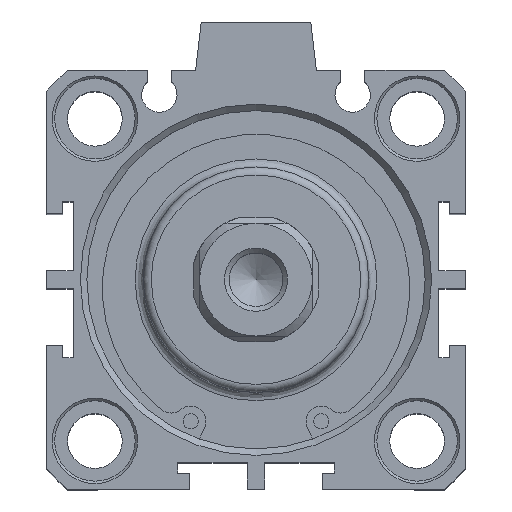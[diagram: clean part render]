
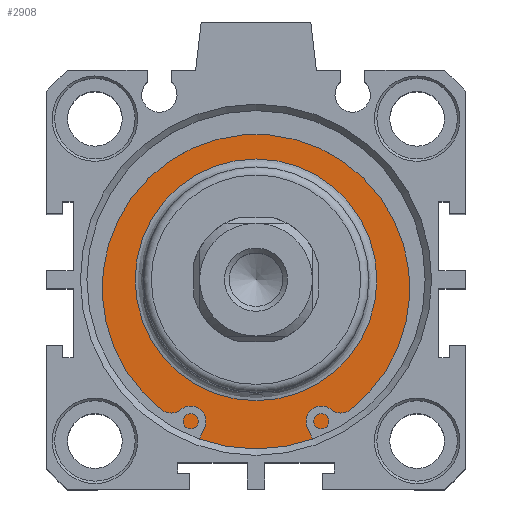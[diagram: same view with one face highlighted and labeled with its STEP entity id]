
A CAD part, top view. The second image highlights one B-rep face of the part: STEP entity #2908.
In plain terms, the highlighted planar face has unit normal (0, 0, 1).
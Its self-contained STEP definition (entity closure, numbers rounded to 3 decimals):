
#2857=CARTESIAN_POINT('',(0.598,16.555,52.4));
#2858=VERTEX_POINT('',#2857);
#2859=CARTESIAN_POINT('',(0.598,1.555,52.4));
#2860=DIRECTION('',(0.0,0.0,1.0));
#2861=DIRECTION('',(0.0,-1.0,0.0));
#2862=AXIS2_PLACEMENT_3D('',#2859,#2860,#2861);
#2863=CIRCLE('',#2862,15.);
#2864=EDGE_CURVE('',#2858,#2858,#2863,.T.);
#2889=CARTESIAN_POINT('',(0.598,19.055,52.4));
#2890=DIRECTION('',(0.0,0.0,1.0));
#2891=DIRECTION('',(1.0,0.0,0.0));
#2892=AXIS2_PLACEMENT_3D('',#2889,#2890,#2891);
#2893=PLANE('',#2892);
#2894=CARTESIAN_POINT('',(0.598,22.555,52.4));
#2895=VERTEX_POINT('',#2894);
#2896=CARTESIAN_POINT('',(0.598,1.555,52.4));
#2897=DIRECTION('',(0.0,0.0,-1.0));
#2898=DIRECTION('',(0.0,1.0,0.0));
#2899=AXIS2_PLACEMENT_3D('',#2896,#2897,#2898);
#2900=CIRCLE('',#2899,21.);
#2901=EDGE_CURVE('',#2895,#2895,#2900,.T.);
#2902=ORIENTED_EDGE('',*,*,#2901,.F.);
#2903=EDGE_LOOP('',(#2902));
#2904=FACE_OUTER_BOUND('',#2903,.T.);
#2905=ORIENTED_EDGE('',*,*,#2864,.F.);
#2906=EDGE_LOOP('',(#2905));
#2907=FACE_BOUND('',#2906,.T.);
#2908=ADVANCED_FACE('',(#2904,#2907),#2893,.T.);
